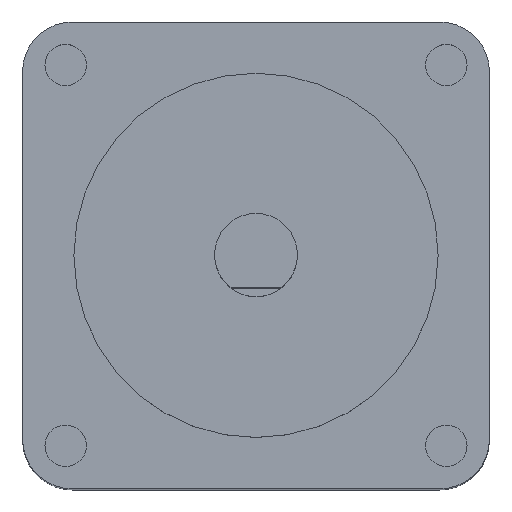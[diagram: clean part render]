
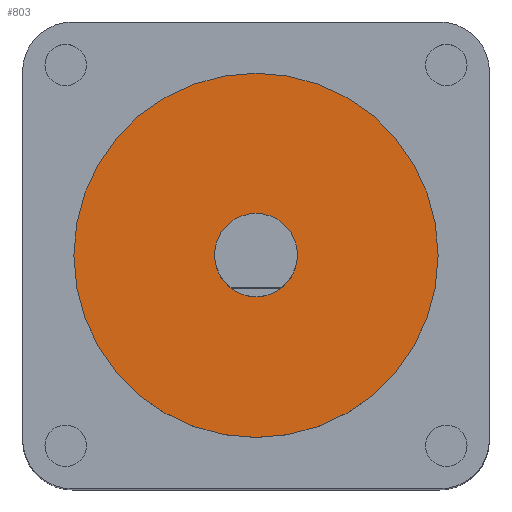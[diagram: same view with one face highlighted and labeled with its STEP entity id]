
A CAD part, top view. The second image highlights one B-rep face of the part: STEP entity #803.
In plain terms, the highlighted planar face has unit normal (0, 0, 1).
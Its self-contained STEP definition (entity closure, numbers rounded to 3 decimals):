
#6 = EDGE_LOOP ( 'NONE', ( #191, #194 ) ) ;
#9 = EDGE_LOOP ( 'NONE', ( #192, #195 ) ) ;
#132 = VERTEX_POINT ( 'NONE', #726 ) ;
#151 = VERTEX_POINT ( 'NONE', #757 ) ;
#152 = VERTEX_POINT ( 'NONE', #756 ) ;
#153 = VERTEX_POINT ( 'NONE', #755 ) ;
#191 = ORIENTED_EDGE ( 'NONE', *, *, #870, .T. ) ;
#192 = ORIENTED_EDGE ( 'NONE', *, *, #871, .F. ) ;
#194 = ORIENTED_EDGE ( 'NONE', *, *, #838, .T. ) ;
#195 = ORIENTED_EDGE ( 'NONE', *, *, #836, .F. ) ;
#226 = FACE_OUTER_BOUND ( 'NONE', #6, .T. ) ;
#227 = FACE_BOUND ( 'NONE', #9, .T. ) ;
#309 = AXIS2_PLACEMENT_3D ( 'NONE', #530, #531, #532 ) ;
#321 = CIRCLE ( 'NONE', #309, 2.5 ) ;
#353 = AXIS2_PLACEMENT_3D ( 'NONE', #705, #704, #703 ) ;
#382 = CIRCLE ( 'NONE', #384, 11. ) ;
#384 = AXIS2_PLACEMENT_3D ( 'NONE', #536, #537, #538 ) ;
#403 = CIRCLE ( 'NONE', #409, 2.5 ) ;
#405 = CIRCLE ( 'NONE', #407, 11. ) ;
#407 = AXIS2_PLACEMENT_3D ( 'NONE', #613, #614, #615 ) ;
#409 = AXIS2_PLACEMENT_3D ( 'NONE', #616, #617, #618 ) ;
#530 = CARTESIAN_POINT ( 'NONE',  ( 0., 0., 43. ) ) ;
#531 = DIRECTION ( 'NONE',  ( 0., 0., 1. ) ) ;
#532 = DIRECTION ( 'NONE',  ( 1., 0., 0. ) ) ;
#536 = CARTESIAN_POINT ( 'NONE',  ( 0., 0., 43. ) ) ;
#537 = DIRECTION ( 'NONE',  ( 0., 0., 1. ) ) ;
#538 = DIRECTION ( 'NONE',  ( 1., 0., 0. ) ) ;
#613 = CARTESIAN_POINT ( 'NONE',  ( 0., 0., 43. ) ) ;
#614 = DIRECTION ( 'NONE',  ( 0., 0., 1. ) ) ;
#615 = DIRECTION ( 'NONE',  ( 1., 0., 0. ) ) ;
#616 = CARTESIAN_POINT ( 'NONE',  ( 0., 0., 43. ) ) ;
#617 = DIRECTION ( 'NONE',  ( 0., 0., 1. ) ) ;
#618 = DIRECTION ( 'NONE',  ( 1., 0., 0. ) ) ;
#703 = DIRECTION ( 'NONE',  ( 1., 0., 0. ) ) ;
#704 = DIRECTION ( 'NONE',  ( 0., 0., 1. ) ) ;
#705 = CARTESIAN_POINT ( 'NONE',  ( 0., 0., 43. ) ) ;
#706 = PLANE ( 'NONE',  #353 ) ;
#726 = CARTESIAN_POINT ( 'NONE',  ( 11., 0., 43. ) ) ;
#755 = CARTESIAN_POINT ( 'NONE',  ( 2.5, 0., 43. ) ) ;
#756 = CARTESIAN_POINT ( 'NONE',  ( -11., 0., 43. ) ) ;
#757 = CARTESIAN_POINT ( 'NONE',  ( -2.5, 0., 43. ) ) ;
#803 = ADVANCED_FACE ( 'NONE', ( #226, #227 ), #706, .T. ) ;
#836 = EDGE_CURVE ( 'NONE', #153, #151, #321, .T. ) ;
#838 = EDGE_CURVE ( 'NONE', #132, #152, #382, .T. ) ;
#870 = EDGE_CURVE ( 'NONE', #152, #132, #405, .T. ) ;
#871 = EDGE_CURVE ( 'NONE', #151, #153, #403, .T. ) ;
